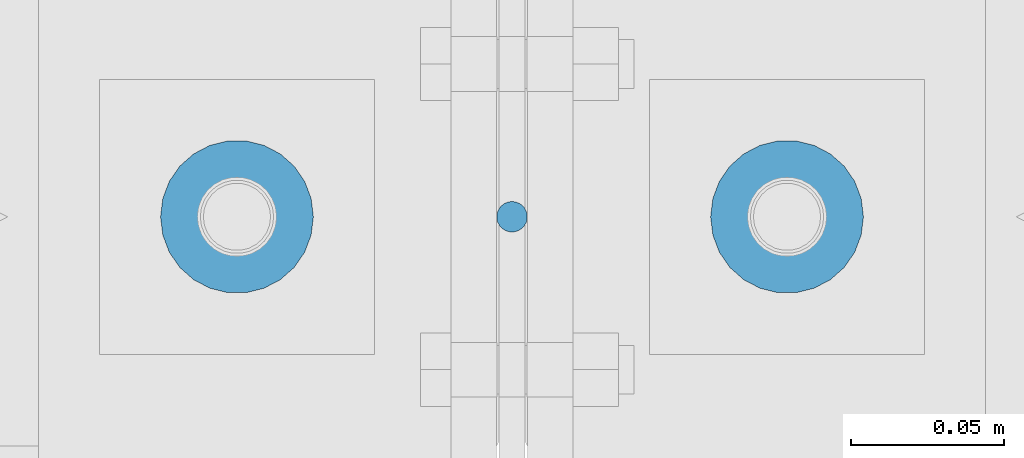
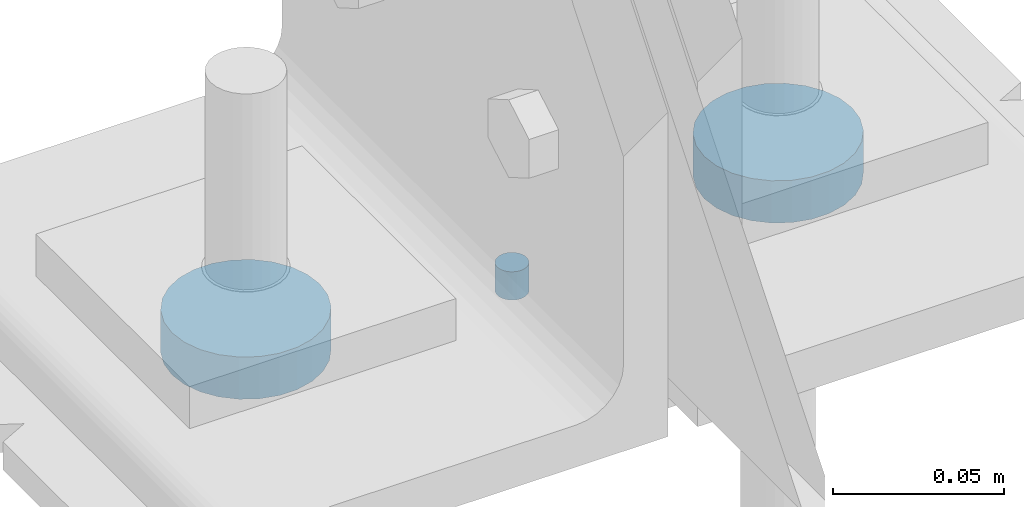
# One storey, part 104 of 123: 3 mechanical fasteners, 3 elements without a shape of their own.
"""IFC2X3 building model written with IfcOpenShell, lengths in millimetres."""

from ifc_helpers import new_model, si_unit, frame, origin_with_axes, origin_2d_with_axis, place, context, subcontext, project, spatial, circle, extrude, source, transform, mapped, material, type_object, element, aggregate, save


model = new_model("IFC2X3")

# Units and contexts
model_context = context("Model", 3, precision=1e-05, world=origin_with_axes())
body_context = subcontext(model_context, "Body", "Model", "MODEL_VIEW")
ifc_project = project(units=[si_unit("LENGTHUNIT", "METRE", prefix="MILLI"), si_unit("AREAUNIT", "SQUARE_METRE"), si_unit("VOLUMEUNIT", "CUBIC_METRE"), si_unit("MASSUNIT", "GRAM", prefix="KILO"), si_unit("TIMEUNIT", "SECOND"), si_unit("PLANEANGLEUNIT", "RADIAN"), si_unit("SOLIDANGLEUNIT", "STERADIAN"), si_unit("THERMODYNAMICTEMPERATUREUNIT", "DEGREE_CELSIUS"), si_unit("LUMINOUSINTENSITYUNIT", "LUMEN")], contexts=[model_context])

# Site, building, storey
site_placement = place(None, origin_with_axes())
site = spatial("IfcSite", under=ifc_project, at=site_placement, Name="Undefined", CompositionType="ELEMENT")
building_placement = place(site_placement, origin_with_axes())
building = spatial("IfcBuilding", under=site, at=building_placement, Name="Undefined", CompositionType="ELEMENT")
storey_placement = place(building_placement, origin_with_axes())
storey = spatial("IfcBuildingStorey", under=building, at=storey_placement, Name="Undefined", CompositionType="ELEMENT", Elevation=0.0)

# Assembly, mechanical fastener
assembly_1_placement = place(storey_placement, origin_with_axes())
assembly_1 = element("IfcElementAssembly", 1, at=assembly_1_placement, inside=storey, Name="Steel Assembly", AssemblyPlace="NOTDEFINED", PredefinedType="RIGID_FRAME")
ifc_material = material(Name="6.8")
discrete_accessory_type = type_object("IfcDiscreteAccessoryType", Name="Bolt assembly")
shared_shape_1 = source(origin_with_axes(), body_context, "Body", "SweptSolid", [
    extrude(circle(Radius=5.0, at=origin_2d_with_axis()), frame((0.0, 0.0, 0.0), z_axis=(0.0, 1.0, 0.0), x_axis=(1.0, 0.0, 0.0)), (0.0, 0.0, 1.0), 10.1),
])
mechanical_fastener_1_placement = place(assembly_1_placement, frame((7.3411058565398e-08, 15109.9999996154, -250.0), z_axis=(1.0, 0.0, 0.0), x_axis=(0.0, -1.0, 0.0)))
mechanical_fastener_1 = element("IfcMechanicalFastener", 2, at=mechanical_fastener_1_placement, type_object=discrete_accessory_type, material=ifc_material, Name="Bolt assembly", NominalDiameter=8.0, NominalLength=10.0, context=body_context, shape_type="MappedRepresentation", body=[
    mapped(shared_shape_1, transform((0.0, 0.0, 0.0))),
])
aggregate(assembly_1, [mechanical_fastener_1])

assembly_2_placement = place(storey_placement, origin_with_axes())
assembly_2 = element("IfcElementAssembly", 3, at=assembly_2_placement, inside=storey, Name="Steel Assembly", AssemblyPlace="NOTDEFINED", PredefinedType="RIGID_FRAME")
shared_shape_2 = source(origin_with_axes(), body_context, "Body", "SweptSolid", [
    extrude(circle(Radius=25.0, at=origin_2d_with_axis()), frame((0.0, -15.0, 0.0), z_axis=(0.0, 1.0, 0.0), x_axis=(1.0, 0.0, 0.0)), (0.0, 0.0, 1.0), 15.1),
])
mechanical_fastener_2_placement = place(assembly_2_placement, frame((-90.0028489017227, 15110.0000024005, -249.999999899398), z_axis=(0.0, 1.0, 0.0), x_axis=(1.0, 0.0, 0.0)))
mechanical_fastener_2 = element("IfcMechanicalFastener", 4, at=mechanical_fastener_2_placement, type_object=discrete_accessory_type, material=ifc_material, Name="Bolt assembly", NominalDiameter=30.0, NominalLength=15.0, context=body_context, shape_type="MappedRepresentation", body=[
    mapped(shared_shape_2, transform((0.0, 0.0, 0.0))),
])
aggregate(assembly_2, [mechanical_fastener_2])

assembly_3_placement = place(storey_placement, origin_with_axes())
assembly_3 = element("IfcElementAssembly", 5, at=assembly_3_placement, inside=storey, Name="Steel Assembly", AssemblyPlace="NOTDEFINED", PredefinedType="RIGID_FRAME")
mechanical_fastener_3_placement = place(assembly_3_placement, frame((89.9971510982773, 15110.0000024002, -249.999999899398), z_axis=(0.0, -1.0, 0.0), x_axis=(-1.0, 0.0, 0.0)))
mechanical_fastener_3 = element("IfcMechanicalFastener", 6, at=mechanical_fastener_3_placement, type_object=discrete_accessory_type, material=ifc_material, Name="Bolt assembly", NominalDiameter=30.0, NominalLength=15.0, context=body_context, shape_type="MappedRepresentation", body=[
    mapped(shared_shape_2, transform((0.0, 0.0, 0.0))),
])
aggregate(assembly_3, [mechanical_fastener_3])

save(model, "model.ifc")
